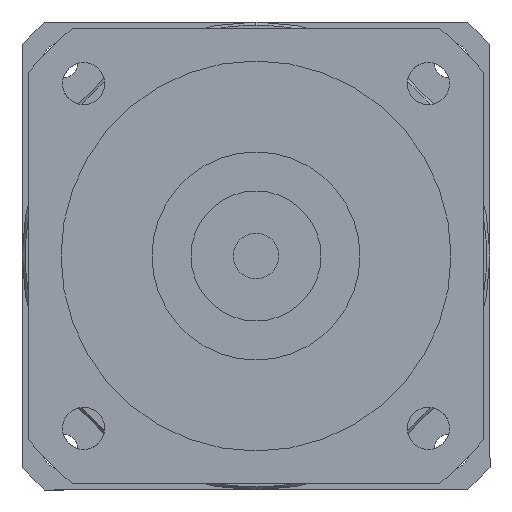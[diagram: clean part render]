
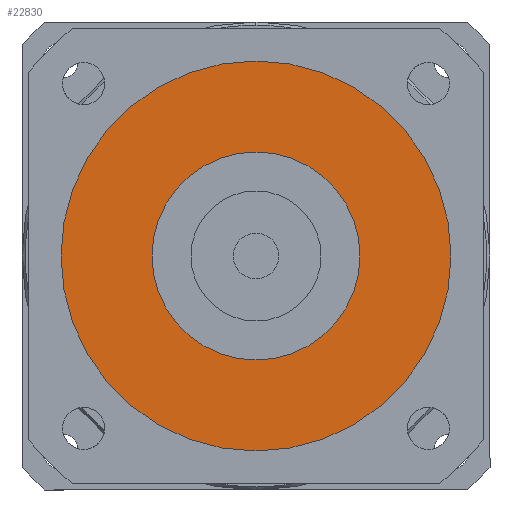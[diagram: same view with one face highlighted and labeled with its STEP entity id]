
A CAD part, left-side view. The second image highlights one B-rep face of the part: STEP entity #22830.
In plain terms, the highlighted planar face has unit normal (-1, 0, 0) as drawn and (0, 0, -1) by its records, which use the part's own axes.
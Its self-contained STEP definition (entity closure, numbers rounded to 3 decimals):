
#22350=CARTESIAN_POINT('',(30.,0.,-88.));
#22360=VERTEX_POINT('',#22350);
#22440=CARTESIAN_POINT('',(-30.,0.,-88.));
#22450=VERTEX_POINT('',#22440);
#22480=CARTESIAN_POINT('',(0.,0.,
-88.));
#22490=DIRECTION('',(0.,0.,1.));
#22500=DIRECTION('',(0.,-1.,0.));
#22510=AXIS2_PLACEMENT_3D('',#22480,#22490,#22500);
#22520=CIRCLE('',#22510,30.);
#22530=EDGE_CURVE('',#22360,#22450,#22520,.T.);
#22580=CARTESIAN_POINT('',(0.,0.,
-88.));
#22590=DIRECTION('',(0.,0.,1.));
#22600=DIRECTION('',(-1.,0.,0.));
#22610=AXIS2_PLACEMENT_3D('',#22580,#22590,#22600);
#22620=PLANE('',#22610);
#22630=EDGE_CURVE('',#22450,#22360,#22520,.T.);
#22640=ORIENTED_EDGE('',*,*,#22630,.F.);
#22650=ORIENTED_EDGE('',*,*,#22530,.F.);
#22660=EDGE_LOOP('',(#22650,#22640));
#22670=FACE_OUTER_BOUND('',#22660,.T.);
#22680=CARTESIAN_POINT('',(0.,0.,
-88.));
#22690=DIRECTION('',(0.,0.,1.));
#22700=DIRECTION('',(0.,-1.,0.));
#22710=AXIS2_PLACEMENT_3D('',#22680,#22690,#22700);
#22720=CIRCLE('',#22710,16.);
#22730=CARTESIAN_POINT('',(-16.,0.,-88.));
#22740=VERTEX_POINT('',#22730);
#22750=CARTESIAN_POINT('',(16.,0.,-88.));
#22760=VERTEX_POINT('',#22750);
#22770=EDGE_CURVE('',#22740,#22760,#22720,.T.);
#22780=ORIENTED_EDGE('',*,*,#22770,.T.);
#22790=EDGE_CURVE('',#22760,#22740,#22720,.T.);
#22800=ORIENTED_EDGE('',*,*,#22790,.T.);
#22810=EDGE_LOOP('',(#22800,#22780));
#22820=FACE_BOUND('',#22810,.T.);
#22830=ADVANCED_FACE('',(#22670,#22820),#22620,.F.);
